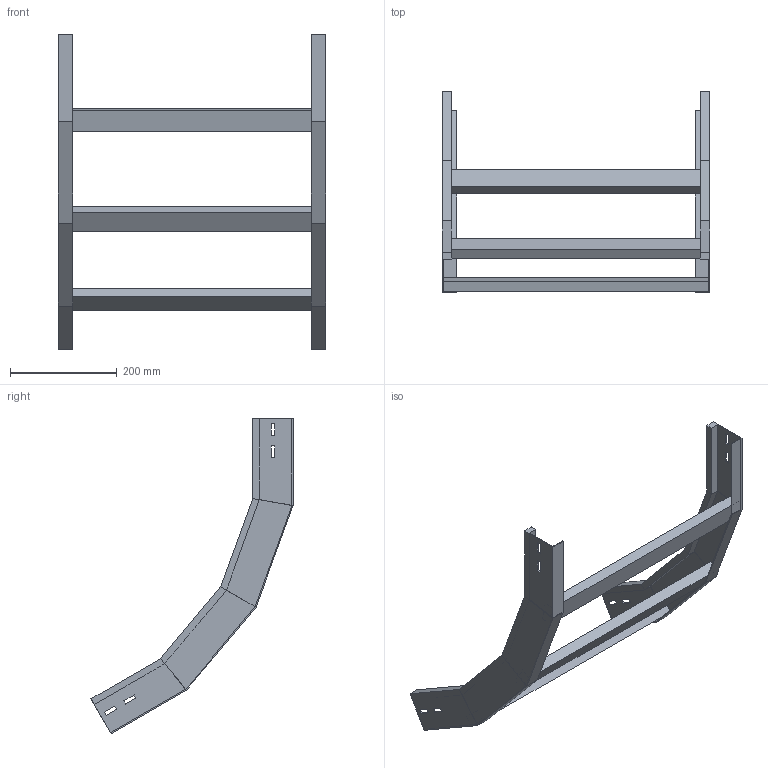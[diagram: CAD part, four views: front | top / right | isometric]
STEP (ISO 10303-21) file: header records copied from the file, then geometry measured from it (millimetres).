
FILE_DESCRIPTION (( 'STEP AP214' ), '1' );
FILE_NAME ('A2X40B5C500XX.step', '2025-03-20T10:17:22', ( '' ), ( '' ), 'SwSTEP 2.0', 'SolidWorks 2023', '' );
FILE_SCHEMA (( 'AUTOMOTIVE_DESIGN' ));
Length unit declared in the file: millimetre
Products named in the file (3): LONGH.SALITA_60°_H75_R500; A2X40B5C500XX; TRAVERSINO_500
Assembly tree (5 placements, depth 2):
  A2X40B5C500XX
    LONGH.SALITA_60°_H75_R500  x2
    TRAVERSINO_500  x3
Bounding box: 500 x 377.79 x 589.4 mm (x, y, z)
Volume: 1735410 mm3; surface area: 512691.6 mm2
Topology: 5 solids, 5 shells, 118 faces, 276 edges, 168 vertices
Faces by surface type: plane 118
Entity records: 1672 total; most frequent: CARTESIAN_POINT 276, ORIENTED_EDGE 264, DIRECTION 260, VECTOR 132, LINE 132, EDGE_CURVE 132, VERTEX_POINT 80, AXIS2_PLACEMENT_3D 64
